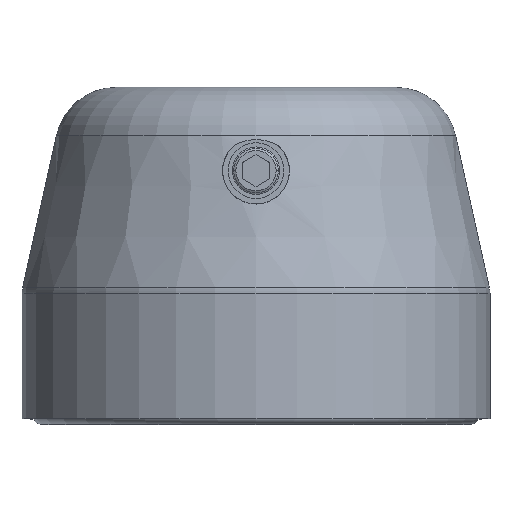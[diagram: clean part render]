
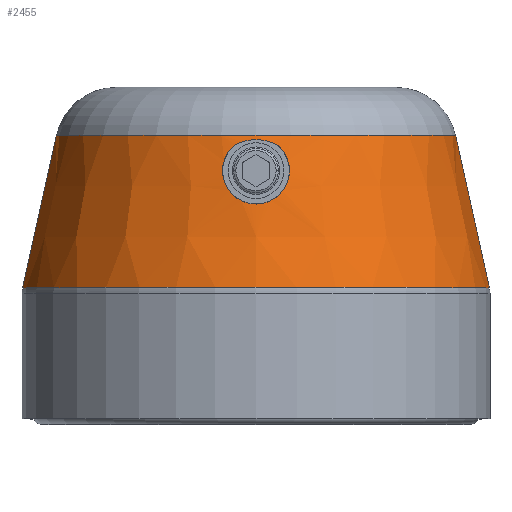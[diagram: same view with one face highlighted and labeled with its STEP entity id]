
A CAD part, top view. The second image highlights one B-rep face of the part: STEP entity #2455.
In plain terms, the highlighted conical face has half-angle 12.5 degrees and reference radius 38.85 mm.
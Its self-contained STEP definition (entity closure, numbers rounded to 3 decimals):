
#1139=CARTESIAN_POINT('',(0.,-8.619,0.));
#1140=DIRECTION('',(0.,1.,0.));
#1141=DIRECTION('',(-1.,0.,0.));
#1142=AXIS2_PLACEMENT_3D('',#1139,#1140,#1141);
#1147=DIRECTION('',(0.216,-0.976,0.));
#1148=VECTOR('',#1147,28.01);
#1149=CARTESIAN_POINT('',(35.819,-8.619,
0.));
#1150=LINE('',#1149,#1148);
#1154=CARTESIAN_POINT('',(0.,-35.965,0.));
#1155=DIRECTION('',(0.,-1.,0.));
#1156=DIRECTION('',(1.,0.,0.));
#1157=AXIS2_PLACEMENT_3D('',#1154,#1155,#1156);
#1162=DIRECTION('',(-0.216,-0.976,0.));
#1163=VECTOR('',#1162,28.01);
#1164=CARTESIAN_POINT('',(-35.819,-8.619,
0.));
#1165=LINE('',#1164,#1163);
#1169=CARTESIAN_POINT('',(-3.744,-10.312,36.));
#1170=CARTESIAN_POINT('',(-3.22,-10.067,36.));
#1171=CARTESIAN_POINT('',(-2.186,-9.688,36.));
#1172=CARTESIAN_POINT('',(-0.719,-9.425,36.));
#1173=CARTESIAN_POINT('',(0.719,-9.425,36.));
#1174=CARTESIAN_POINT('',(2.185,-9.688,36.));
#1175=CARTESIAN_POINT('',(3.219,-10.067,36.));
#1176=CARTESIAN_POINT('',(3.744,-10.312,36.));
#1330=CARTESIAN_POINT('',(3.744,-10.312,36.));
#1331=CARTESIAN_POINT('',(4.091,-10.589,36.026));
#1332=CARTESIAN_POINT('',(4.719,-11.217,36.091));
#1333=CARTESIAN_POINT('',(5.422,-12.323,36.238));
#1334=CARTESIAN_POINT('',(5.873,-13.556,36.443));
#1335=CARTESIAN_POINT('',(6.049,-14.879,36.712));
#1336=CARTESIAN_POINT('',(5.923,-16.249,37.04));
#1337=CARTESIAN_POINT('',(5.476,-17.584,37.41));
#1338=CARTESIAN_POINT('',(4.73,-18.78,37.78));
#1339=CARTESIAN_POINT('',(3.74,-19.759,38.111));
#1340=CARTESIAN_POINT('',(2.577,-20.474,38.367));
#1341=CARTESIAN_POINT('',(1.311,-20.905,38.528));
#1342=CARTESIAN_POINT('',(-0.002,-21.048,
38.582));
#1343=CARTESIAN_POINT('',(-1.315,-20.904,
38.527));
#1344=CARTESIAN_POINT('',(-2.581,-20.472,
38.367));
#1345=CARTESIAN_POINT('',(-3.743,-19.756,
38.11));
#1346=CARTESIAN_POINT('',(-4.733,-18.776,
37.779));
#1347=CARTESIAN_POINT('',(-5.478,-17.58,
37.408));
#1348=CARTESIAN_POINT('',(-5.924,-16.244,
37.039));
#1349=CARTESIAN_POINT('',(-6.049,-14.873,
36.71));
#1350=CARTESIAN_POINT('',(-5.872,-13.552,
36.443));
#1351=CARTESIAN_POINT('',(-5.421,-12.32,
36.238));
#1352=CARTESIAN_POINT('',(-4.718,-11.216,
36.091));
#1353=CARTESIAN_POINT('',(-4.091,-10.588,
36.026));
#1354=CARTESIAN_POINT('',(-3.744,-10.312,36.));
#1563=CARTESIAN_POINT('',(35.819,-8.619,0.));
#1564=CARTESIAN_POINT('',(-35.819,-8.619,0.));
#1565=VERTEX_POINT('',#1563);
#1566=VERTEX_POINT('',#1564);
#1567=CARTESIAN_POINT('',(41.881,-35.965,
0.));
#1568=VERTEX_POINT('',#1567);
#1569=CARTESIAN_POINT('',(-41.881,-35.965,
0.));
#1570=VERTEX_POINT('',#1569);
#1579=VERTEX_POINT('',#1169);
#1580=VERTEX_POINT('',#1176);
#2435=CARTESIAN_POINT('',(0.,-22.292,0.));
#2436=DIRECTION('',(0.,-1.,0.));
#2437=DIRECTION('',(-1.,0.,0.));
#2438=AXIS2_PLACEMENT_3D('',#2435,#2436,#2437);
#2439=CONICAL_SURFACE('',#2438,38.85,12.5);
#2441=ORIENTED_EDGE('',*,*,#2440,.T.);
#2443=ORIENTED_EDGE('',*,*,#2442,.T.);
#2444=ORIENTED_EDGE('',*,*,#2417,.T.);
#2446=ORIENTED_EDGE('',*,*,#2445,.F.);
#2447=EDGE_LOOP('',(#2441,#2443,#2444,#2446));
#2448=FACE_OUTER_BOUND('',#2447,.F.);
#2450=ORIENTED_EDGE('',*,*,#2449,.F.);
#2452=ORIENTED_EDGE('',*,*,#2451,.F.);
#2453=EDGE_LOOP('',(#2450,#2452));
#2454=FACE_BOUND('',#2453,.F.);
#1143=CIRCLE('',#1142,35.819);
#1158=CIRCLE('',#1157,41.881);
#1177=B_SPLINE_CURVE_WITH_KNOTS('',3,(#1169,#1170,#1171,#1172,#1173,#1174,#1175,
#1176),.UNSPECIFIED.,.F.,.F.,(4,1,1,1,1,4),(0.,0.2,0.4,0.6,0.8,1.),
.UNSPECIFIED.);
#1355=B_SPLINE_CURVE_WITH_KNOTS('',3,(#1330,#1331,#1332,#1333,#1334,#1335,#1336,
#1337,#1338,#1339,#1340,#1341,#1342,#1343,#1344,#1345,#1346,#1347,#1348,#1349,
#1350,#1351,#1352,#1353,#1354),.UNSPECIFIED.,.F.,.F.,(4,1,1,1,1,1,1,1,1,1,1,1,1,
1,1,1,1,1,1,1,1,1,4),(0.,0.045,0.091,
0.136,0.182,0.227,0.273,
0.318,0.364,0.409,0.455,0.5,
0.545,0.591,0.636,0.682,
0.727,0.773,0.818,0.864,
0.909,0.955,1.),.UNSPECIFIED.);
#2417=EDGE_CURVE('',#1568,#1570,#1158,.T.);
#2440=EDGE_CURVE('',#1566,#1565,#1143,.T.);
#2442=EDGE_CURVE('',#1565,#1568,#1150,.T.);
#2445=EDGE_CURVE('',#1566,#1570,#1165,.T.);
#2449=EDGE_CURVE('',#1579,#1580,#1177,.T.);
#2451=EDGE_CURVE('',#1580,#1579,#1355,.T.);
#2455=ADVANCED_FACE('',(#2448,#2454),#2439,.T.);
